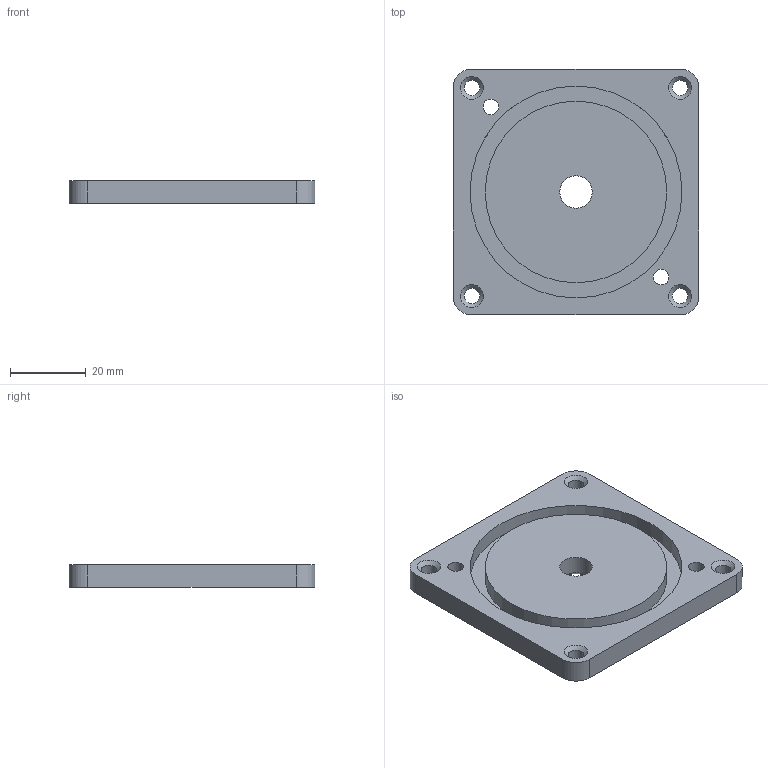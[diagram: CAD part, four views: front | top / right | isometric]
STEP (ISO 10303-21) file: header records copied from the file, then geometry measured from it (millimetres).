
FILE_DESCRIPTION(('STEP AP203'), '1');
FILE_NAME('眐珆1801.01.07.03.101 - 婑鳧氀', '', ('UNSPECIFIED'), ('UNSPECIFIED'), 'C3D Converter', 'C3D Toolkit', '');
FILE_SCHEMA(('CONFIG_CONTROL_DESIGN'));
Length unit declared in the file: millimetre
Products named in the file (1): ТППФ1801.01.07.03.101-01
Bounding box: 65 x 65 x 6 mm (x, y, z)
Volume: 21718.7 mm3; surface area: 11522.9 mm2
Topology: 1 solids, 1 shells, 28 faces, 65 edges, 41 vertices
Faces by surface type: cylinder 13, plane 8, cone 7
Full cylindrical faces by diameter (mm): 4.134 x6, 8.566 x1, 48 x1, 56 x1
Entity records: 1018 total; most frequent: DIRECTION 140, CARTESIAN_POINT 119, ORIENTED_EDGE 98, AXIS2_PLACEMENT_3D 62, EDGE_LOOP 60, EDGE_CURVE 49, VERTEX_POINT 41, CIRCLE 33
